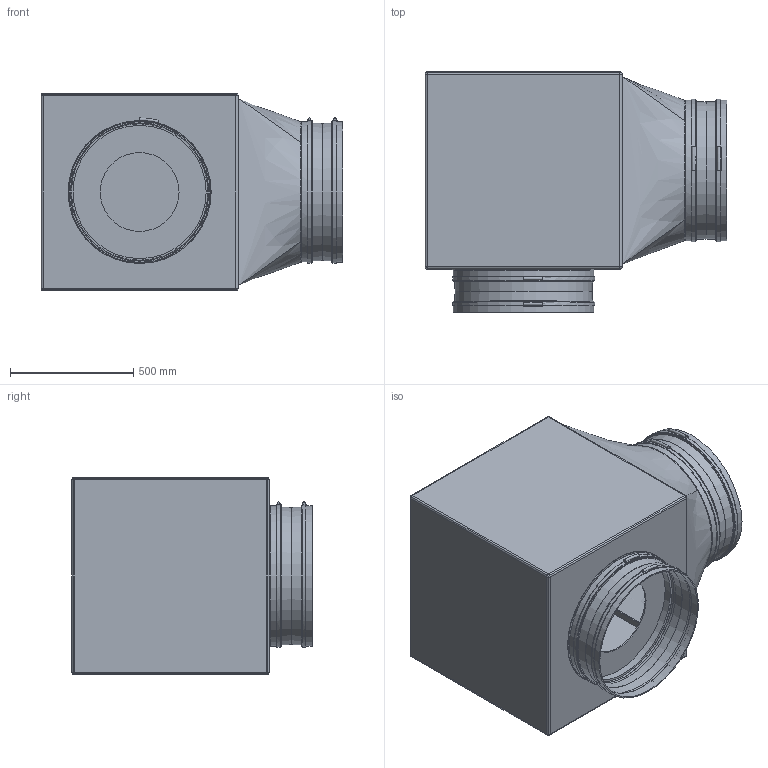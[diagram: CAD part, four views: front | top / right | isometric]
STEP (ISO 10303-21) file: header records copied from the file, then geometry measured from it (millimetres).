
FILE_DESCRIPTION(/* description */ (''),/* implementation_level */ '2;1');
FILE_NAME(/* name */ 'Z:\Output\GBD 560_4_4_Radial-05521-004.stp',/* time_stamp */ '2017-05-09T00:02:24+02:00',/* author */ ('jayeshpanchal'),/* organization */ (''),/* preprocessor_version */ 'ST-DEVELOPER v16.5',/* originating_system */ 'Autodesk Inventor 2017',/* authorisation */ '');
FILE_SCHEMA (('AUTOMOTIVE_DESIGN { 1 0 10303 214 3 1 1 }'));
Length unit declared in the file: millimetre
Products named in the file (1): GB-2
Bounding box: 1225 x 975 x 800 mm (x, y, z)
Volume: 21884354.5 mm3; surface area: 9939248 mm2
Topology: 9 solids, 10 shells, 139 faces, 266 edges, 160 vertices
Faces by surface type: plane 55, cylinder 48, bspline 16, cone 8, sphere 8, torus 4
Full cylindrical faces by diameter (mm): 320 x1, 540 x1, 550 x1, 560 x2, 561 x8, 570 x2, 571 x8, 577 x4, 580 x1
Entity records: 4003 total; most frequent: CARTESIAN_POINT 1272, DIRECTION 584, ORIENTED_EDGE 466, AXIS2_PLACEMENT_3D 245, EDGE_CURVE 227, EDGE_LOOP 206, VERTEX_POINT 157, FACE_OUTER_BOUND 139
